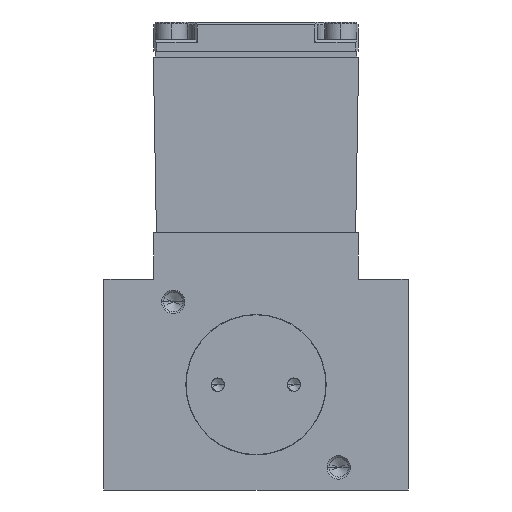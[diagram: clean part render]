
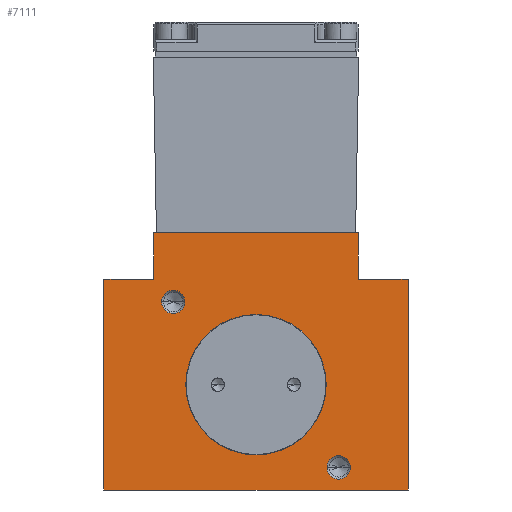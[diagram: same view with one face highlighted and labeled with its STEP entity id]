
A CAD part, front view. The second image highlights one B-rep face of the part: STEP entity #7111.
In plain terms, the highlighted planar face has unit normal (0, -1, 0).
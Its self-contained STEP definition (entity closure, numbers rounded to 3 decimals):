
#5=DIRECTION('',(-1.,0.,0.));
#6=VECTOR('',#5,8.5);
#7=CARTESIAN_POINT('',(-17.5,0.,18.));
#8=LINE('',#7,#6);
#27=DIRECTION('',(0.,0.,-1.));
#28=VECTOR('',#27,8.);
#29=CARTESIAN_POINT('',(-17.5,0.,26.));
#30=LINE('',#29,#28);
#99=DIRECTION('',(0.,0.,-1.));
#100=VECTOR('',#99,36.);
#101=CARTESIAN_POINT('',(-26.,0.,18.));
#102=LINE('',#101,#100);
#379=DIRECTION('',(0.,0.,-1.));
#380=VECTOR('',#379,8.);
#381=CARTESIAN_POINT('',(17.5,0.,26.));
#382=LINE('',#381,#380);
#383=DIRECTION('',(0.,0.,-1.));
#384=VECTOR('',#383,36.);
#385=CARTESIAN_POINT('',(26.,0.,18.));
#386=LINE('',#385,#384);
#387=CARTESIAN_POINT('',(0.,0.,0.));
#388=DIRECTION('',(0.,-1.,0.));
#389=DIRECTION('',(1.,0.,0.));
#390=AXIS2_PLACEMENT_3D('',#387,#388,#389);
#392=CARTESIAN_POINT('',(0.,0.,0.));
#393=DIRECTION('',(0.,-1.,0.));
#394=DIRECTION('',(-1.,0.,0.));
#395=AXIS2_PLACEMENT_3D('',#392,#393,#394);
#397=CARTESIAN_POINT('',(14.142,0.,-14.142));
#398=DIRECTION('',(0.,-1.,0.));
#399=DIRECTION('',(1.,0.,0.));
#400=AXIS2_PLACEMENT_3D('',#397,#398,#399);
#402=CARTESIAN_POINT('',(14.142,0.,-14.142));
#403=DIRECTION('',(0.,-1.,0.));
#404=DIRECTION('',(-1.,0.,0.));
#405=AXIS2_PLACEMENT_3D('',#402,#403,#404);
#407=CARTESIAN_POINT('',(-14.142,0.,14.142));
#408=DIRECTION('',(0.,-1.,0.));
#409=DIRECTION('',(1.,0.,0.));
#410=AXIS2_PLACEMENT_3D('',#407,#408,#409);
#412=CARTESIAN_POINT('',(-14.142,0.,14.142));
#413=DIRECTION('',(0.,-1.,0.));
#414=DIRECTION('',(-1.,0.,0.));
#415=AXIS2_PLACEMENT_3D('',#412,#413,#414);
#421=DIRECTION('',(-1.,0.,0.));
#422=VECTOR('',#421,35.);
#423=CARTESIAN_POINT('',(17.5,0.,26.));
#424=LINE('',#423,#422);
#449=DIRECTION('',(-1.,0.,0.));
#450=VECTOR('',#449,8.5);
#451=CARTESIAN_POINT('',(26.,0.,18.));
#452=LINE('',#451,#450);
#736=DIRECTION('',(-1.,0.,0.));
#737=VECTOR('',#736,52.);
#738=CARTESIAN_POINT('',(26.,0.,-18.));
#739=LINE('',#738,#737);
#5440=CARTESIAN_POINT('',(-26.,0.,18.));
#5442=VERTEX_POINT('',#5440);
#5445=CARTESIAN_POINT('',(26.,0.,18.));
#5447=VERTEX_POINT('',#5445);
#5448=CARTESIAN_POINT('',(26.,0.,-18.));
#5449=CARTESIAN_POINT('',(-26.,0.,-18.));
#5450=VERTEX_POINT('',#5448);
#5451=VERTEX_POINT('',#5449);
#5456=CARTESIAN_POINT('',(12.,0.,0.));
#5457=CARTESIAN_POINT('',(-12.,0.,0.));
#5458=VERTEX_POINT('',#5456);
#5459=VERTEX_POINT('',#5457);
#5930=CARTESIAN_POINT('',(16.142,0.,-14.142));
#5931=CARTESIAN_POINT('',(12.142,0.,-14.142));
#5932=VERTEX_POINT('',#5930);
#5933=VERTEX_POINT('',#5931);
#5944=CARTESIAN_POINT('',(-12.142,0.,14.142));
#5945=CARTESIAN_POINT('',(-16.142,0.,14.142));
#5946=VERTEX_POINT('',#5944);
#5947=VERTEX_POINT('',#5945);
#6201=CARTESIAN_POINT('',(17.5,0.,26.));
#6203=VERTEX_POINT('',#6201);
#6204=CARTESIAN_POINT('',(-17.5,0.,26.));
#6205=VERTEX_POINT('',#6204);
#6212=CARTESIAN_POINT('',(17.5,0.,18.));
#6214=VERTEX_POINT('',#6212);
#6216=CARTESIAN_POINT('',(-17.5,0.,18.));
#6218=VERTEX_POINT('',#6216);
#7073=CARTESIAN_POINT('',(26.,0.,18.));
#7074=DIRECTION('',(0.,-1.,0.));
#7075=DIRECTION('',(-1.,0.,0.));
#7076=AXIS2_PLACEMENT_3D('',#7073,#7074,#7075);
#7077=PLANE('',#7076);
#7078=ORIENTED_EDGE('',*,*,#6813,.F.);
#7079=ORIENTED_EDGE('',*,*,#6840,.F.);
#7081=ORIENTED_EDGE('',*,*,#7080,.F.);
#7083=ORIENTED_EDGE('',*,*,#7082,.T.);
#7085=ORIENTED_EDGE('',*,*,#7084,.F.);
#7087=ORIENTED_EDGE('',*,*,#7086,.T.);
#7089=ORIENTED_EDGE('',*,*,#7088,.T.);
#7090=ORIENTED_EDGE('',*,*,#6921,.F.);
#7091=EDGE_LOOP('',(#7078,#7079,#7081,#7083,#7085,#7087,#7089,#7090));
#7092=FACE_OUTER_BOUND('',#7091,.F.);
#7094=ORIENTED_EDGE('',*,*,#7093,.T.);
#7096=ORIENTED_EDGE('',*,*,#7095,.T.);
#7097=EDGE_LOOP('',(#7094,#7096));
#7098=FACE_BOUND('',#7097,.F.);
#7100=ORIENTED_EDGE('',*,*,#7099,.T.);
#7102=ORIENTED_EDGE('',*,*,#7101,.T.);
#7103=EDGE_LOOP('',(#7100,#7102));
#7104=FACE_BOUND('',#7103,.F.);
#7106=ORIENTED_EDGE('',*,*,#7105,.T.);
#7108=ORIENTED_EDGE('',*,*,#7107,.T.);
#7109=EDGE_LOOP('',(#7106,#7108));
#7110=FACE_BOUND('',#7109,.F.);
#391=CIRCLE('',#390,12.);
#396=CIRCLE('',#395,12.);
#401=CIRCLE('',#400,2.);
#406=CIRCLE('',#405,2.);
#411=CIRCLE('',#410,2.);
#416=CIRCLE('',#415,2.);
#6813=EDGE_CURVE('',#6218,#5442,#8,.T.);
#6840=EDGE_CURVE('',#6205,#6218,#30,.T.);
#6921=EDGE_CURVE('',#5442,#5451,#102,.T.);
#7080=EDGE_CURVE('',#6203,#6205,#424,.T.);
#7082=EDGE_CURVE('',#6203,#6214,#382,.T.);
#7084=EDGE_CURVE('',#5447,#6214,#452,.T.);
#7086=EDGE_CURVE('',#5447,#5450,#386,.T.);
#7088=EDGE_CURVE('',#5450,#5451,#739,.T.);
#7093=EDGE_CURVE('',#5458,#5459,#391,.T.);
#7095=EDGE_CURVE('',#5459,#5458,#396,.T.);
#7099=EDGE_CURVE('',#5932,#5933,#401,.T.);
#7101=EDGE_CURVE('',#5933,#5932,#406,.T.);
#7105=EDGE_CURVE('',#5946,#5947,#411,.T.);
#7107=EDGE_CURVE('',#5947,#5946,#416,.T.);
#7111=ADVANCED_FACE('',(#7092,#7098,#7104,#7110),#7077,.T.);
